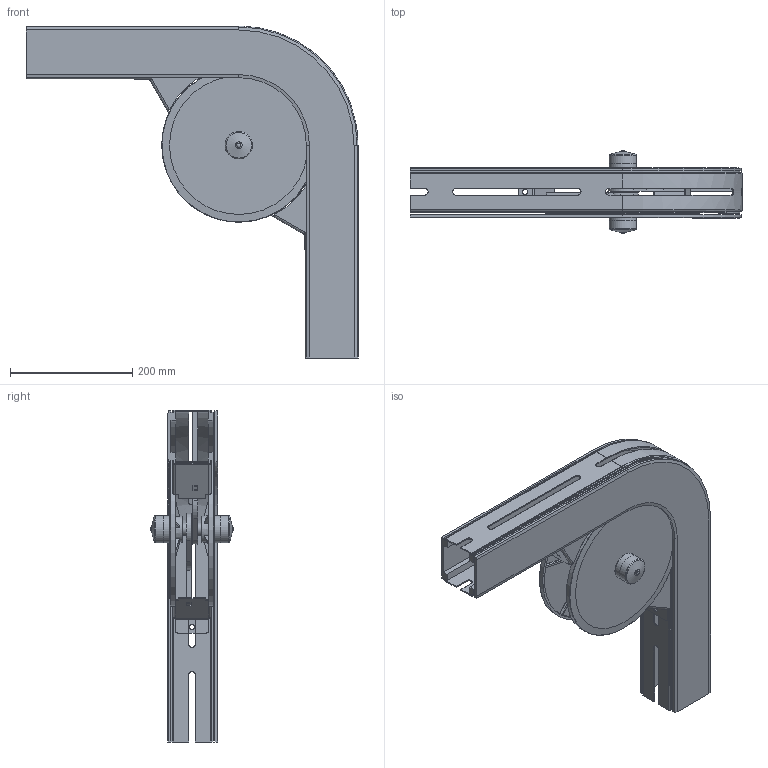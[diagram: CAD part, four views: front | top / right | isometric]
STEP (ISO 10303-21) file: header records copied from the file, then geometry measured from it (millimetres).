
FILE_DESCRIPTION(/* description */ ('WHEELCURVE 90° SERIE 530'),/* implementation_level */ '2;1');
FILE_NAME(/* name */ '530-5025-90.stp',/* time_stamp */ '2022-09-21T15:19:28+02:00',/* author */ ('ML'),/* organization */ ('CARRYLINE'),/* preprocessor_version */ 'ST-DEVELOPER v19.2',/* originating_system */ 'Autodesk Inventor 2023',/* authorisation */ '');
FILE_SCHEMA (('AUTOMOTIVE_DESIGN { 1 0 10303 214 3 1 1 }'));
Length unit declared in the file: millimetre
Products named in the file (8): 530-5025-90; 530-5375+830-2000-01; 14261_3; 14261_29; 14261_30; 14261_31; 830-5027_1; 830-5031
Assembly tree (10 placements, depth 2):
  530-5025-90
    530-5375+830-2000-01
    14261_3
    14261_29
    14261_30
    14261_31  x2
    830-5027_1  x2
    830-5031  x2
Bounding box: 543 x 135.92 x 543 mm (x, y, z)
Volume: 2086497 mm3; surface area: 1021833.6 mm2
Topology: 11 solids, 11 shells, 594 faces, 1569 edges, 1012 vertices
Faces by surface type: plane 301, cylinder 165, bspline 56, torus 38, cone 30, sphere 4
Full cylindrical faces by diameter (mm): 4.917 x8, 6.2 x8, 8.5 x2, 16.2 x2, 17 x4, 20 x4, 30 x3, 34.8 x4, 41.3 x2, 45 x2, 252 x2
Entity records: 15788 total; most frequent: CARTESIAN_POINT 4554, ORIENTED_EDGE 2328, DIRECTION 2166, EDGE_CURVE 1164, VERTEX_POINT 756, AXIS2_PLACEMENT_3D 739, LINE 688, VECTOR 688
